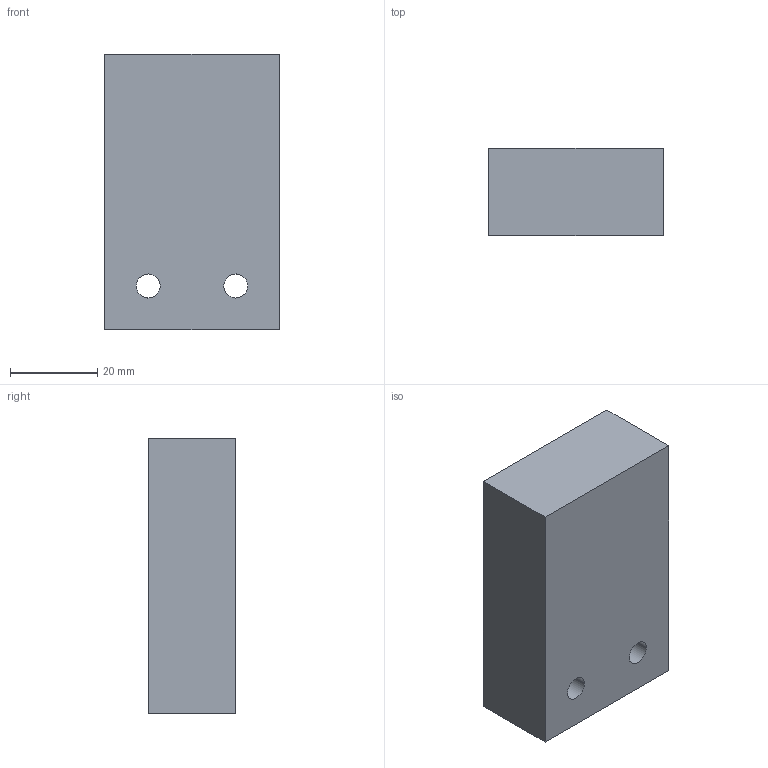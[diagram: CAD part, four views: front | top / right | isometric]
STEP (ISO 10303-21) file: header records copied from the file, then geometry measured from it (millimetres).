
FILE_DESCRIPTION(/* description */ (''),/* implementation_level */ '2;1');
FILE_NAME(/* name */ 'OP654B~1',/* time_stamp */ '2014-02-14T19:49:04+01:00',/* author */ (''),/* organization */ (''),/* preprocessor_version */ 'ST-DEVELOPER v14',/* originating_system */ '',/* authorisation */ '');
FILE_SCHEMA (('AUTOMOTIVE_DESIGN'));
Length unit declared in the file: millimetre
Products named in the file (1): Document
Bounding box: 40 x 20 x 63 mm (x, y, z)
Volume: 48882.3 mm3; surface area: 9906.9 mm2
Topology: 1 solids, 1 shells, 16 faces, 36 edges, 24 vertices
Faces by surface type: plane 8, bspline 8
Entity records: 1288 total; most frequent: CARTESIAN_POINT 778, B_SPLINE_CURVE_WITH_KNOTS 80, ORIENTED_EDGE 72, PCURVE 72, DEFINITIONAL_REPRESENTATION 72, SURFACE_CURVE 36, EDGE_CURVE 36, VERTEX_POINT 24
